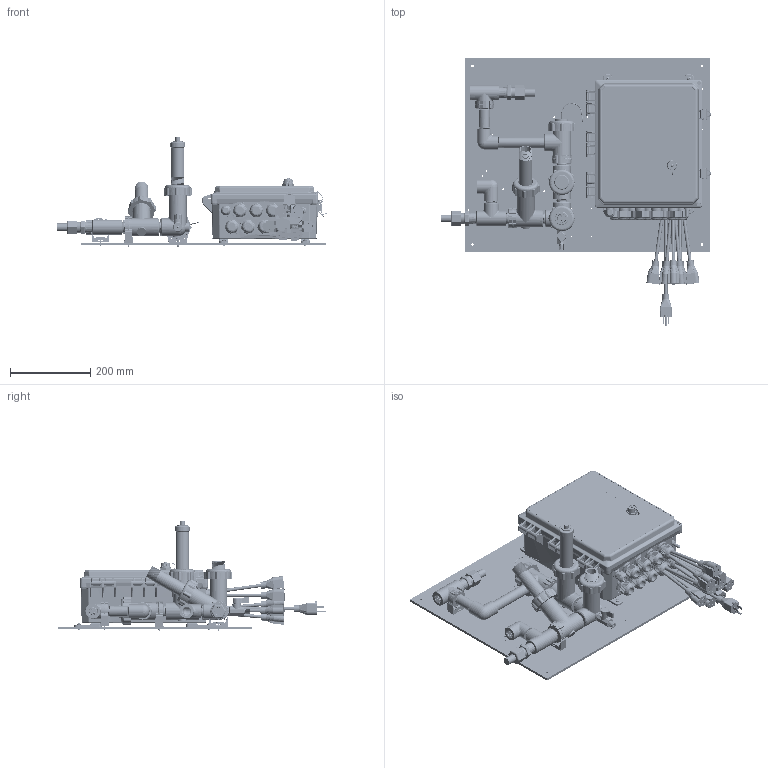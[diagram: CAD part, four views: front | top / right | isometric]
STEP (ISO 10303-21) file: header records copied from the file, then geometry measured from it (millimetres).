
FILE_DESCRIPTION (( 'STEP AP203' ), '1' );
FILE_NAME ('W900-CT-PAIMRN.STEP', '2019-04-11T13:21:14', ( '' ), ( '' ), 'SwSTEP 2.0', 'SolidWorks 2019', '' );
FILE_SCHEMA (( 'CONFIG_CONTROL_DESIGN' ));
Length unit declared in the file: inch
Products named in the file (53): SHELL-102881; SHELL-102586; IMS0005; SHELL-102061; SHELL-103283-FT; 103861; SHELL-103963; SHELL-103425_4882K14; SHELL-102594; SHELL-102883; SHELL-102692; SHELL-191020-XX; SHELL-102423; IMS0035_91500A537; ISA0006; W900-CT-PAIMRN Manifold Only; SHELL-102884; SHELL-102882; SHELL-191646-XX; SHELL-102961_30075T212; SHELL-191965-06; SHELL-103893_91772A829; SHELL-102377_30075T211; SHELL-102879-XX_102879-01; SHELL-102919; 192606-PIN; SHELL-103886_98273A320; 102907; SHELL-104203; SHELL-102377ws; IMS0013; SHELL-102880; SHELL-WEL-XXX-NN; 102961ws; 102903_102903; SHELL-191965-06-104203; SHELL-103859_Cord1; W900-CT-PAIMRN; IMS0012; SHELL-102986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
Assembly tree (97 placements, depth 5):
  W900-CT-PAIMRN
    SHELL-102692
    102961ws
      SHELL-102961_30075T212
      SHELL-103886_98273A320
    102961ws
      SHELL-102961_30075T212
      SHELL-103886_98273A320
    W900 Shell
      W900 Shell
      SHELL-103283-FT  x4
      IMS0035_91500A537  x4
      SHELL-103893_91772A829  x4
      ISA0006
        102907
        102903_102903
        102906
        103860_Cord1  x3
        103861
      ISA0006
        102907
        102903_102903
        102906
        103860_Cord1  x3
        103861
      ISA0006
        102907
        102903_102903
        102906
        103860_Cord1  x3
        103861
      SHELL-103859_Cord1
    W900-CT-PAIMRN Manifold Only
      SHELL-102881
      SHELL-103425_4882K14  x5
      SHELL-102884  x2
      SHELL-102879-XX_102879-01
      SHELL-103515
        IMS0013
        IMS0012
      SHELL-102586  x4
      SHELL-102594  x4
      SHELL-191020-XX
        SHELL-102882
        SHELL-102919
        SHELL-102594
        SHELL-190996
          SHELL-102880
          SHELL-102986  x2
        IMS0005
      SHELL-191646-XX
        SHELL-102883
      SHELL-191652
        192606-PIN
        SHELL-WEL-XXX-NN
        SHELL-103778
      SHELL-102061  x2
      SHELL-102423  x2
      SHELL-191965-06-104203
        SHELL-191965-06
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Bounding box: 671.11 x 665.28 x 272.69 mm (x, y, z)
Volume: 5291568.7 mm3; surface area: 2304920.3 mm2
Topology: 135 solids, 138 shells, 18919 faces, 49603 edges, 31071 vertices
Faces by surface type: plane 7854, cylinder 5542, bspline 3575, cone 1274, torus 566, sphere 108
Entity records: 767992 total; most frequent: CARTESIAN_POINT 430952, ORIENTED_EDGE 78778, DIRECTION 55434, EDGE_CURVE 39393, VERTEX_POINT 24748, AXIS2_PLACEMENT_3D 19216, LINE 17002, VECTOR 17002
